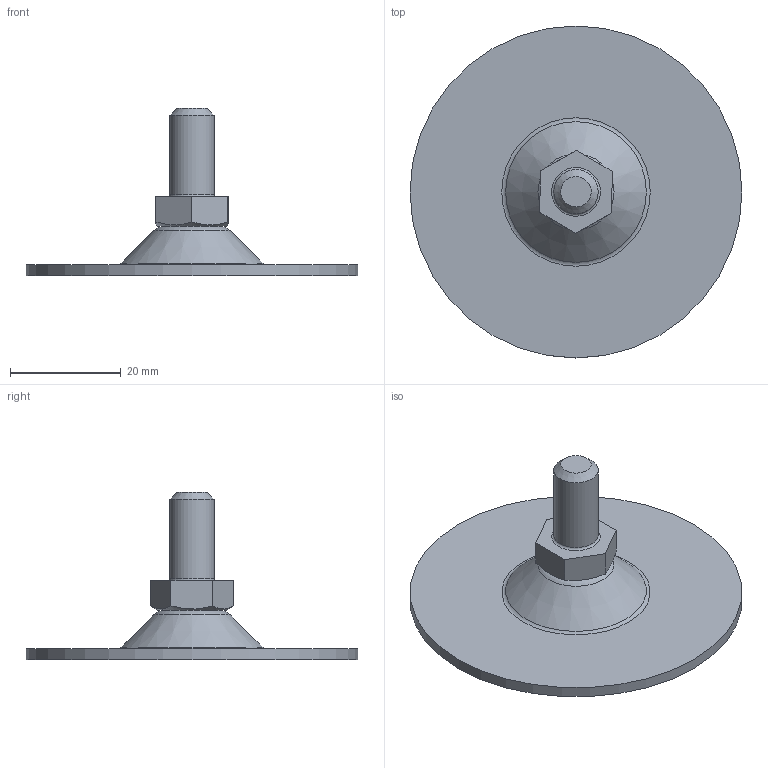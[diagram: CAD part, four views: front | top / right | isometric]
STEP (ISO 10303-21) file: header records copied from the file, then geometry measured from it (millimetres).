
FILE_DESCRIPTION(('STEP AP203'), '1');
FILE_NAME('A00050.1060816', '', ('UNSPECIFIED'), ('UNSPECIFIED'), 'C3D Converter', 'C3D Toolkit', '');
FILE_SCHEMA(('CONFIG_CONTROL_DESIGN'));
Length unit declared in the file: millimetre
Products named in the file (4): A00050.1060816; A00050.1160
Assembly tree (3 placements, depth 2):
  A00050.1060816
    A00050.1160
    (unnamed)
    (unnamed)
Bounding box: 60 x 60 x 30.26 mm (x, y, z)
Volume: 7544.9 mm3; surface area: 7665.1 mm2
Topology: 3 solids, 3 shells, 58 faces, 130 edges, 82 vertices
Faces by surface type: plane 28, torus 8, bspline 8, cone 7, cylinder 6, sphere 1
Full cylindrical faces by diameter (mm): 3.3 x1, 4 x1, 4.5 x1, 8 x2, 60 x1
Entity records: 2171 total; most frequent: CARTESIAN_POINT 784, DIRECTION 242, ORIENTED_EDGE 214, EDGE_CURVE 107, AXIS2_PLACEMENT_3D 95, EDGE_LOOP 86, VERTEX_POINT 81, ADVANCED_FACE 58
